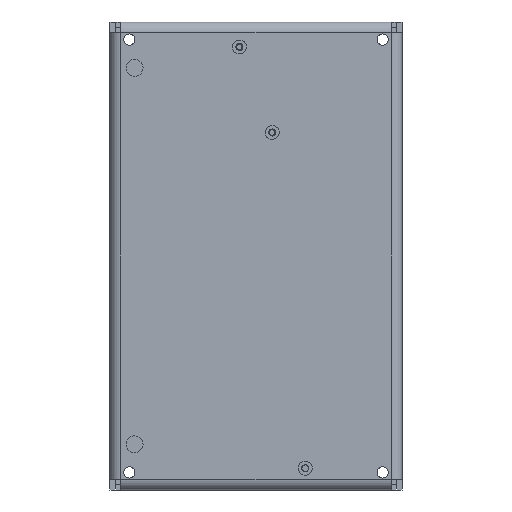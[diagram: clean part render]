
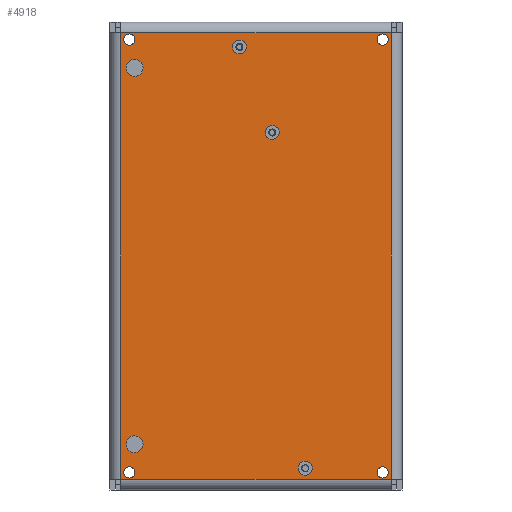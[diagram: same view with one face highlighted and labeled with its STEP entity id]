
A CAD part, front view. The second image highlights one B-rep face of the part: STEP entity #4918.
In plain terms, the highlighted planar face has unit normal (0, -1, 0).
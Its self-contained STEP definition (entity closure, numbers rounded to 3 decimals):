
#4918=ADVANCED_FACE('',(#17009,#17011,#17013,#17015,#17017,#17019,#17021,#17023,
#17025,#17027),#17029,.T.);
#17009=FACE_BOUND('',#17010,.T.);
#17010=EDGE_LOOP('',(#27353,#27354,#27355,#27356));
#17011=FACE_BOUND('',#17012,.T.);
#17012=EDGE_LOOP('',(#27357));
#17013=FACE_BOUND('',#17014,.T.);
#17014=EDGE_LOOP('',(#27358));
#17015=FACE_BOUND('',#17016,.T.);
#17016=EDGE_LOOP('',(#27359));
#17017=FACE_BOUND('',#17018,.T.);
#17018=EDGE_LOOP('',(#27360));
#17019=FACE_BOUND('',#17020,.T.);
#17020=EDGE_LOOP('',(#27361));
#17021=FACE_BOUND('',#17022,.T.);
#17022=EDGE_LOOP('',(#27362));
#17023=FACE_BOUND('',#17024,.T.);
#17024=EDGE_LOOP('',(#27363));
#17025=FACE_BOUND('',#17026,.T.);
#17026=EDGE_LOOP('',(#27364));
#17027=FACE_BOUND('',#17028,.T.);
#17028=EDGE_LOOP('',(#27365));
#17029=PLANE('',#17030);
#17030=AXIS2_PLACEMENT_3D('',#17031,#17032,#17033);
#17031=CARTESIAN_POINT('',(-41.5,0.,-66.5));
#17032=DIRECTION('',(0.,-1.,0.));
#17033=DIRECTION('',(0.,0.,-1.));
#27353=ORIENTED_EDGE('',*,*,#32494,.T.);
#27354=ORIENTED_EDGE('',*,*,#32297,.T.);
#27355=ORIENTED_EDGE('',*,*,#32082,.T.);
#27356=ORIENTED_EDGE('',*,*,#32295,.T.);
#27357=ORIENTED_EDGE('',*,*,#32495,.F.);
#27358=ORIENTED_EDGE('',*,*,#32496,.F.);
#27359=ORIENTED_EDGE('',*,*,#32497,.F.);
#27360=ORIENTED_EDGE('',*,*,#32498,.F.);
#27361=ORIENTED_EDGE('',*,*,#32499,.F.);
#27362=ORIENTED_EDGE('',*,*,#32500,.T.);
#27363=ORIENTED_EDGE('',*,*,#32501,.T.);
#27364=ORIENTED_EDGE('',*,*,#32502,.T.);
#27365=ORIENTED_EDGE('',*,*,#32503,.T.);
#32082=EDGE_CURVE('',#35408,#35446,#36065,.T.);
#32295=EDGE_CURVE('',#35446,#36411,#36412,.T.);
#32297=EDGE_CURVE('',#36414,#35408,#36415,.T.);
#32494=EDGE_CURVE('',#36411,#36414,#36709,.T.);
#32495=EDGE_CURVE('',#36710,#36710,#36711,.F.);
#32496=EDGE_CURVE('',#36712,#36712,#36713,.F.);
#32497=EDGE_CURVE('',#36714,#36714,#36715,.T.);
#32498=EDGE_CURVE('',#36716,#36716,#36717,.T.);
#32499=EDGE_CURVE('',#36718,#36718,#36719,.T.);
#32500=EDGE_CURVE('',#36720,#36720,#36721,.T.);
#32501=EDGE_CURVE('',#36722,#36722,#36723,.T.);
#32502=EDGE_CURVE('',#36724,#36724,#36725,.T.);
#32503=EDGE_CURVE('',#36726,#36726,#36727,.T.);
#35408=VERTEX_POINT('',#42592);
#35446=VERTEX_POINT('',#42682);
#36065=LINE('',#44523,#44524);
#36411=VERTEX_POINT('',#45772);
#36412=LINE('',#45773,#45774);
#36414=VERTEX_POINT('',#45780);
#36415=LINE('',#45781,#45782);
#36709=LINE('',#46605,#46606);
#36710=VERTEX_POINT('',#46608);
#36711=CIRCLE('',#46609,2.4);
#36712=VERTEX_POINT('',#46613);
#36713=CIRCLE('',#46614,2.4);
#36714=VERTEX_POINT('',#46618);
#36715=CIRCLE('',#46619,1.98);
#36716=VERTEX_POINT('',#46623);
#36717=CIRCLE('',#46624,1.98);
#36718=VERTEX_POINT('',#46628);
#36719=CIRCLE('',#46629,1.98);
#36720=VERTEX_POINT('',#46633);
#36721=CIRCLE('',#46634,1.6);
#36722=VERTEX_POINT('',#46638);
#36723=CIRCLE('',#46639,1.6);
#36724=VERTEX_POINT('',#46643);
#36725=CIRCLE('',#46644,1.6);
#36726=VERTEX_POINT('',#46648);
#36727=CIRCLE('',#46649,1.6);
#42592=CARTESIAN_POINT('',(38.5,0.,-63.5));
#42682=CARTESIAN_POINT('',(38.5,0.,63.5));
#44523=CARTESIAN_POINT('',(38.5,0.,-63.5));
#44524=VECTOR('',#44525,1.);
#44525=DIRECTION('',(0.,0.,1.));
#45772=CARTESIAN_POINT('',(-38.5,0.,63.5));
#45773=CARTESIAN_POINT('',(38.5,0.,63.5));
#45774=VECTOR('',#45775,1.);
#45775=DIRECTION('',(-1.,0.,0.));
#45780=CARTESIAN_POINT('',(-38.5,0.,-63.5));
#45781=CARTESIAN_POINT('',(-38.5,0.,-63.5));
#45782=VECTOR('',#45783,1.);
#45783=DIRECTION('',(1.,0.,0.));
#46605=CARTESIAN_POINT('',(-38.5,0.,63.5));
#46606=VECTOR('',#46607,1.);
#46607=DIRECTION('',(0.,0.,-1.));
#46608=CARTESIAN_POINT('',(-36.716,0.,-52.578));
#46609=AXIS2_PLACEMENT_3D('',#46610,#46611,#46612);
#46610=CARTESIAN_POINT('',(-34.5,0.,-53.5));
#46611=DIRECTION('',(-0.,1.,-0.));
#46612=DIRECTION('',(-0.923,-0.,0.384));
#46613=CARTESIAN_POINT('',(-34.056,0.,51.141));
#46614=AXIS2_PLACEMENT_3D('',#46615,#46616,#46617);
#46615=CARTESIAN_POINT('',(-34.5,0.,53.5));
#46616=DIRECTION('',(-0.,1.,-0.));
#46617=DIRECTION('',(0.185,0.,-0.983));
#46618=CARTESIAN_POINT('',(-2.956,0.,60.338));
#46619=AXIS2_PLACEMENT_3D('',#46620,#46621,#46622);
#46620=CARTESIAN_POINT('',(-4.7,0.,59.4));
#46621=DIRECTION('',(0.,-1.,0.));
#46622=DIRECTION('',(0.881,0.,0.474));
#46623=CARTESIAN_POINT('',(6.157,0.,33.877));
#46624=AXIS2_PLACEMENT_3D('',#46625,#46626,#46627);
#46625=CARTESIAN_POINT('',(4.6,0.,35.1));
#46626=DIRECTION('',(0.,-1.,0.));
#46627=DIRECTION('',(0.786,0.,-0.618));
#46628=CARTESIAN_POINT('',(15.98,0.,-60.3));
#46629=AXIS2_PLACEMENT_3D('',#46630,#46631,#46632);
#46630=CARTESIAN_POINT('',(14.,0.,-60.3));
#46631=DIRECTION('',(0.,-1.,0.));
#46632=DIRECTION('',(1.,0.,0.));
#46633=CARTESIAN_POINT('',(36.,0.,63.1));
#46634=AXIS2_PLACEMENT_3D('',#46635,#46636,#46637);
#46635=CARTESIAN_POINT('',(36.,0.,61.5));
#46636=DIRECTION('',(-0.,1.,-0.));
#46637=DIRECTION('',(0.,0.,-1.));
#46638=CARTESIAN_POINT('',(-36.,0.,63.1));
#46639=AXIS2_PLACEMENT_3D('',#46640,#46641,#46642);
#46640=CARTESIAN_POINT('',(-36.,0.,61.5));
#46641=DIRECTION('',(-0.,1.,-0.));
#46642=DIRECTION('',(0.,0.,-1.));
#46643=CARTESIAN_POINT('',(-36.,0.,-59.9));
#46644=AXIS2_PLACEMENT_3D('',#46645,#46646,#46647);
#46645=CARTESIAN_POINT('',(-36.,0.,-61.5));
#46646=DIRECTION('',(-0.,1.,-0.));
#46647=DIRECTION('',(0.,0.,-1.));
#46648=CARTESIAN_POINT('',(36.,0.,-59.9));
#46649=AXIS2_PLACEMENT_3D('',#46650,#46651,#46652);
#46650=CARTESIAN_POINT('',(36.,0.,-61.5));
#46651=DIRECTION('',(-0.,1.,-0.));
#46652=DIRECTION('',(0.,0.,-1.));
